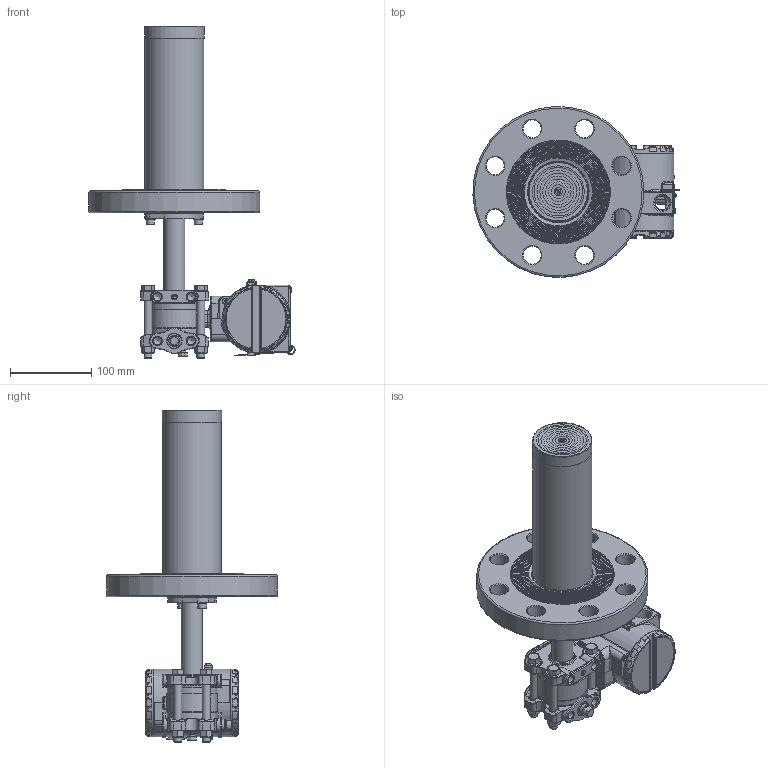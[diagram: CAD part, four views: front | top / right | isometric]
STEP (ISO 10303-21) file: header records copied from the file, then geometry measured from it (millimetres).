
FILE_DESCRIPTION(/* description */ (''),/* implementation_level */ '2;1');
FILE_NAME(/* name */ 'F:\Area\Desenvolvimento_2\Projects\Sensor\projetos\LD30X\montagens 3d - clientes\SELO NIVEL\LD30XL 3-300 RF ext 200 ref 1-4NPT purga acima.stp',/* time_stamp */ '2023-02-10T17:02:22-03:00',/* author */ ('inventor02'),/* organization */ (''),/* preprocessor_version */ 'ST-DEVELOPER v17',/* originating_system */ 'Autodesk Inventor 2019',/* authorisation */ '');
FILE_SCHEMA (('CONFIG_CONTROL_DESIGN'));
Products named in the file (41): LD30XL 3-300 RF ext 200 ref 1-4NPT purga acima; 204-0301-L-3 300 RF ext 200 purga acima; nivel fx3 com baixa diferencial 1-4NPT purga acima; involucro fx0-3 apos a usinagem final; flange diferencial std purga; 101-C-7484-01 flange selo nivel VR; 201-A-0504-tubo união teste 1; bujao 1-4NPT; Sangria; Porca 3-8 x 16 UNC; Paraf. 3-8 x 16 UNC; adaptação tubo x flanges 1-1-2 a 4pol; 101-B-0161-anel cortado do tubo - teste1; 101-B-0162-flange fixação tubo; ANSI B18.3.1M - M6x1 x 16; DIN 127 - A 6; flange 3 300 ext 200; 101-C-0120-13; 096-B-0199-14; 101-B-7701-02 ext 3-200; carcaça vazia com tampas e plaqueta; carcaça LD inox sem letras; Subconjunto plaqueta 300; Plaqueta transmissor; Parafuso da Plaqueta; Rebite da Plaqueta; 096-A-0169-03; 101-A-0502-01; Chapa aterramento externo; ISO 1207 - M4 x 8; DIN 915 - M6 x 10; ANSI B18.3.1M - M4x0,7 x 8; Subconjunto tampa com visor aluminio; tampa pintada; VIDRO DO VISOR; oring 41x1 vidro tampa; Trava do vidro da tampa com visor; trava do vidro VH256; Subconjunto tampa sem visor-aluminio; tampa cega 300 pintada p0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
Assembly tree (51 placements, depth 4):
  LD30XL 3-300 RF ext 200 ref 1-4NPT purga acima
    204-0301-L-3 300 RF ext 200 purga acima
      nivel fx3 com baixa diferencial 1-4NPT purga acima
        involucro fx0-3 apos a usinagem final
        flange diferencial std purga
        101-C-7484-01 flange selo nivel VR
        201-A-0504-tubo união teste 1
        DIN 915 - M6 x 10
        bujao 1-4NPT
        Sangria
        Porca 3-8 x 16 UNC  x4
        Paraf. 3-8 x 16 UNC  x4
      adaptação tubo x flanges 1-1-2 a 4pol
        101-B-0161-anel cortado do tubo - teste1
        101-B-0162-flange fixação tubo
        ANSI B18.3.1M - M6x1 x 16  x2
        DIN 127 - A 6  x2
      flange 3 300 ext 200
        101-C-0120-13
        096-B-0199-14
        101-B-7701-02 ext 3-200
    carcaça vazia com tampas e plaqueta
      carcaça LD inox sem letras
      Subconjunto plaqueta 300
        Plaqueta transmissor
        Parafuso da Plaqueta
        Rebite da Plaqueta
        096-A-0169-03
        101-A-0502-01
      Chapa aterramento externo
      ISO 1207 - M4 x 8
      DIN 915 - M6 x 10
      ANSI B18.3.1M - M4x0,7 x 8  x2
      Subconjunto tampa com visor aluminio
        tampa pintada
        VIDRO DO VISOR
        oring 41x1 vidro tampa
        Trava do vidro da tampa com visor
        trava do vidro VH256
        00034775-0
      Subconjunto tampa sem visor-aluminio
        tampa cega 300 pintada p0
        00034775-0
Bounding box: 253.18 x 209.8 x 407.8 mm (x, y, z)
Volume: 1645310 mm3; surface area: 447657.5 mm2
Topology: 43 solids, 43 shells, 2774 faces, 6631 edges, 3931 vertices
Faces by surface type: bspline 667, cylinder 660, plane 578, torus 487, cone 256, sphere 126
Full cylindrical faces by diameter (mm): 2 x4, 2.1 x2, 2.459 x5, 2.5 x1, 2.642 x1, 2.7 x1, 2.8 x1, 3 x4, 3.242 x4, 3.5 x5, 3.571 x1, 4 x5, 4.3 x1, 4.4 x1, 4.917 x4, 5 x1, 5.5 x3, 6 x6, 6.647 x1, 7 x7, 7.087 x2, 7.6 x2, 7.798 x4, 8 x1, 8.7 x2, 9.525 x4, 9.728 x6, 10 x2, 10.5 x8, 10.719 x2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
Entity records: 95612 total; most frequent: CARTESIAN_POINT 34811, DIRECTION 12575, ORIENTED_EDGE 12442, EDGE_CURVE 6221, AXIS2_PLACEMENT_3D 5560, VERTEX_POINT 3737, CIRCLE 3297, EDGE_LOOP 2840
